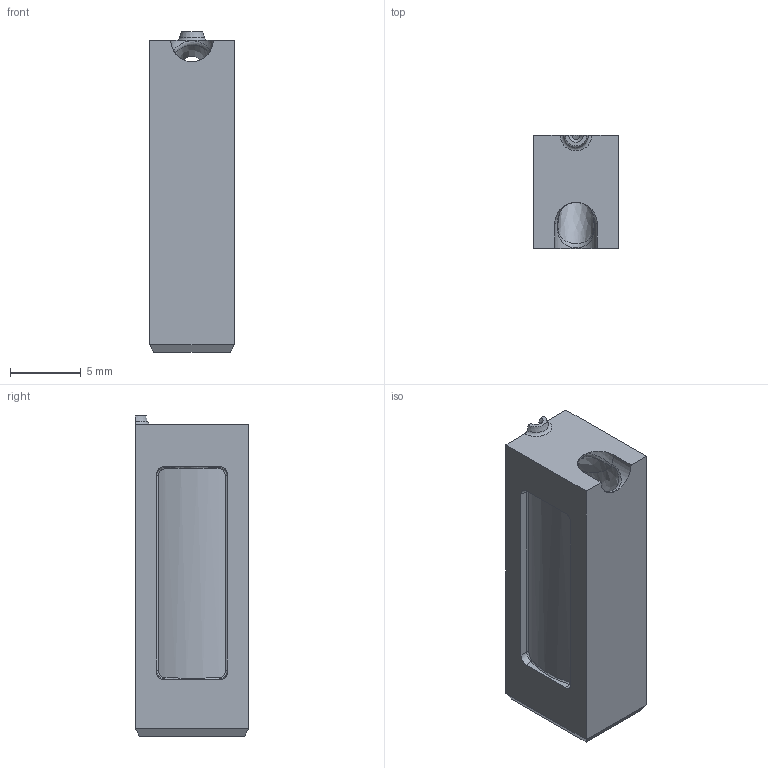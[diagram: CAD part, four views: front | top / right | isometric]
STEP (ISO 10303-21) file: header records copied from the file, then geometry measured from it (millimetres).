
FILE_DESCRIPTION((''),'2;1');
FILE_NAME('TGS8-06-S2','2007-11-27T',('tmeister'),(''),'PRO/ENGINEER BY PARAMETRIC TECHNOLOGY CORPORATION, 2002390','PRO/ENGINEER BY PARAMETRIC TECHNOLOGY CORPORATION, 2002390','');
FILE_SCHEMA(('CONFIG_CONTROL_DESIGN'));
Length unit declared in the file: millimetre
Products named in the file (1): TGS8-06-S2
Bounding box: 6 x 8 x 22.6 mm (x, y, z)
Volume: 810.4 mm3; surface area: 1126.3 mm2
Topology: 1 solids, 2 shells, 71 faces, 246 edges, 175 vertices
Faces by surface type: cylinder 21, plane 20, bspline 18, cone 6, torus 3, sphere 3
Entity records: 4860 total; most frequent: CARTESIAN_POINT 2996, DIRECTION 340, ORIENTED_EDGE 336, EDGE_CURVE 170, AXIS2_PLACEMENT_3D 123, VERTEX_POINT 103, VECTOR 94, LINE 94
